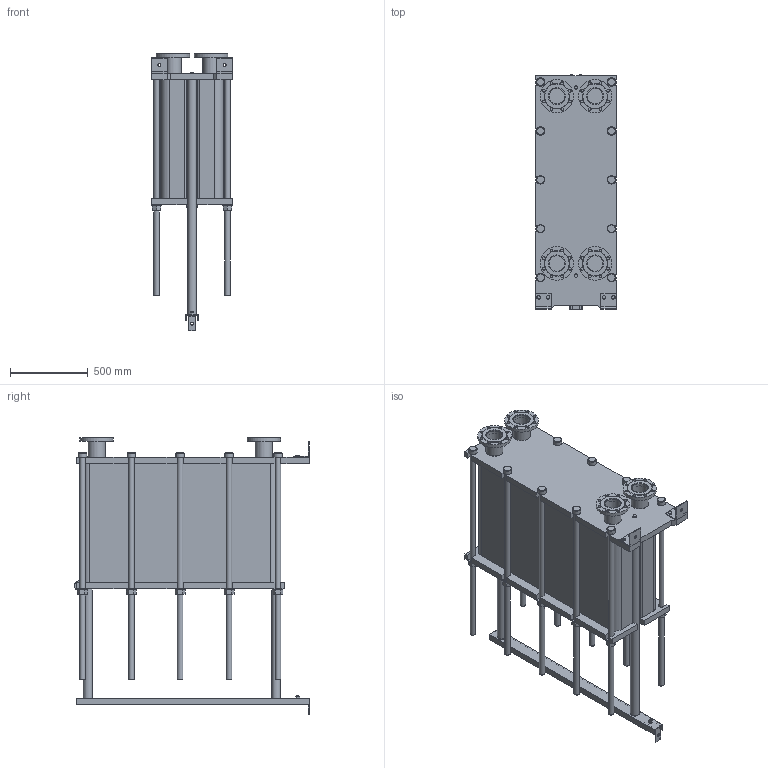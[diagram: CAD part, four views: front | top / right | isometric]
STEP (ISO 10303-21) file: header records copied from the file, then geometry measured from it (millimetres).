
FILE_DESCRIPTION(/* description */ (''),/* implementation_level */ '2;1');
FILE_NAME(/* name */ 'C:\Users\zhuro\Desktop\ENCO\TO\ЭН-04\ЭН-0,5-04-222-1.stp',/* time_stamp */ '2022-06-06T11:05:12+03:00',/* author */ ('zhuro'),/* organization */ (''),/* preprocessor_version */ 'ST-DEVELOPER v18.1',/* originating_system */ 'Autodesk Inventor 2022',/* authorisation */ '');
FILE_SCHEMA (('AUTOMOTIVE_DESIGN { 1 0 10303 214 3 1 1 }'));
Length unit declared in the file: millimetre
Products named in the file (1): ЭН-0,5-04-222-1
Bounding box: 520 x 1510 x 1786 mm (x, y, z)
Volume: 460536475.8 mm3; surface area: 11038053.5 mm2
Topology: 45 solids, 45 shells, 668 faces, 1611 edges, 1048 vertices
Faces by surface type: plane 457, cylinder 166, cone 39, torus 6
Full cylindrical faces by diameter (mm): 8 x4, 10 x2, 16 x8, 18 x35, 36 x25, 40 x2, 42 x1, 45 x4, 54 x10, 57 x2, 60 x10, 68 x2, 100 x4, 110 x8, 215 x4
Entity records: 23607 total; most frequent: CARTESIAN_POINT 7348, DIRECTION 3371, ORIENTED_EDGE 3142, EDGE_CURVE 1571, AXIS2_PLACEMENT_3D 1199, VERTEX_POINT 1044, LINE 973, VECTOR 973
